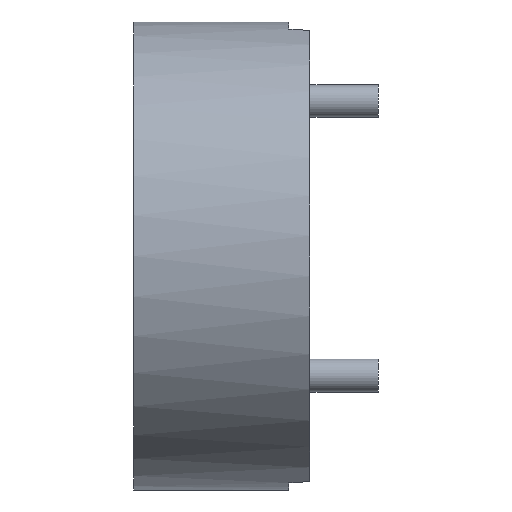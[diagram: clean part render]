
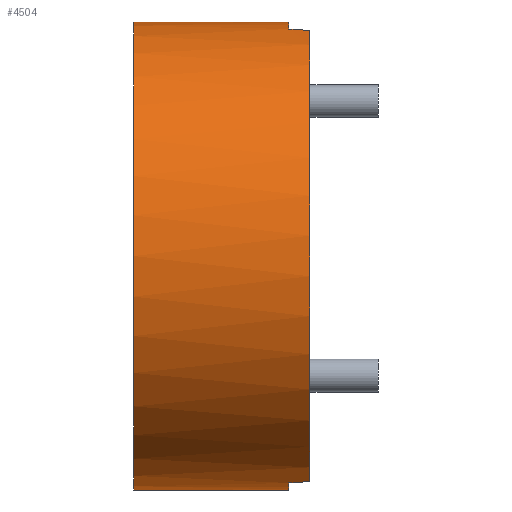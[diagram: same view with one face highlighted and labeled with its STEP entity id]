
A CAD part, left-side view. The second image highlights one B-rep face of the part: STEP entity #4504.
In plain terms, the highlighted cylindrical face has radius 14.287 mm (diameter 28.575 mm), a partial arc.
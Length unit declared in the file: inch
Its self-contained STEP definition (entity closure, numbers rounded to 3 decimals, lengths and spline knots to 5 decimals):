
#13 = VERTEX_POINT ( 'NONE', #6915 ) ;
#165 = ORIENTED_EDGE ( 'NONE', *, *, #8890, .F. ) ;
#242 =( BOUNDED_CURVE ( )  B_SPLINE_CURVE ( 3, ( #3968, #9374, #9426, #7949 ),
 .UNSPECIFIED., .F., .T. ) 
 B_SPLINE_CURVE_WITH_KNOTS ( ( 4, 4 ),
 ( 1.30086, 1.32549 ),
 .UNSPECIFIED. ) 
 CURVE ( )  GEOMETRIC_REPRESENTATION_ITEM ( )  RATIONAL_B_SPLINE_CURVE ( ( 1., 1., 1., 1. ) ) 
 REPRESENTATION_ITEM ( '' )  );
#423 = CARTESIAN_POINT ( 'NONE',  ( -0.1366, -0.1615, -0.54566 ) ) ;
#519 = AXIS2_PLACEMENT_3D ( 'NONE', #590, #3755, #6265 ) ;
#530 = DIRECTION ( 'NONE',  ( 0., 0., 1. ) ) ;
#570 =( BOUNDED_CURVE ( )  B_SPLINE_CURVE ( 3, ( #9657, #8788, #7975, #933 ),
 .UNSPECIFIED., .F., .F. ) 
 B_SPLINE_CURVE_WITH_KNOTS ( ( 4, 4 ),
 ( 4.95769, 4.98232 ),
 .UNSPECIFIED. ) 
 CURVE ( )  GEOMETRIC_REPRESENTATION_ITEM ( )  RATIONAL_B_SPLINE_CURVE ( ( 1., 1., 1., 1. ) ) 
 REPRESENTATION_ITEM ( '' )  );
#590 = CARTESIAN_POINT ( 'NONE',  ( 0., -0.2115, 0. ) ) ;
#933 = CARTESIAN_POINT ( 'NONE',  ( -0.15, -0.2115, -0.54213 ) ) ;
#938 = DIRECTION ( 'NONE',  ( 0., -1., 0. ) ) ;
#1036 = CIRCLE ( 'NONE', #5450, 0.5625 ) ;
#1200 = CARTESIAN_POINT ( 'NONE',  ( 0., -0.1615, 0.5625 ) ) ;
#1450 = CARTESIAN_POINT ( 'NONE',  ( 0., -0.1615, 0. ) ) ;
#2013 = VERTEX_POINT ( 'NONE', #423 ) ;
#2966 = ORIENTED_EDGE ( 'NONE', *, *, #3418, .T. ) ;
#3003 = AXIS2_PLACEMENT_3D ( 'NONE', #7798, #3250, #6371 ) ;
#3048 = CYLINDRICAL_SURFACE ( 'NONE', #5095, 0.5625 ) ;
#3117 = CARTESIAN_POINT ( 'NONE',  ( -0.15, -0.2115, 0.54213 ) ) ;
#3250 = DIRECTION ( 'NONE',  ( 0., 1., 0. ) ) ;
#3418 = EDGE_CURVE ( 'NONE', #5998, #2013, #9155, .T. ) ;
#3656 = EDGE_CURVE ( 'NONE', #4647, #5998, #5643, .T. ) ;
#3750 = ORIENTED_EDGE ( 'NONE', *, *, #8160, .T. ) ;
#3755 = DIRECTION ( 'NONE',  ( 0., 1., 0. ) ) ;
#3907 = CARTESIAN_POINT ( 'NONE',  ( 0., 0.2115, 0. ) ) ;
#3968 = CARTESIAN_POINT ( 'NONE',  ( -0.15, -0.2115, 0.54213 ) ) ;
#4043 = DIRECTION ( 'NONE',  ( 0., 0., 1. ) ) ;
#4136 = VECTOR ( 'NONE', #4162, 39.37008 ) ;
#4162 = DIRECTION ( 'NONE',  ( 0., -1., 0. ) ) ;
#4257 = CARTESIAN_POINT ( 'NONE',  ( 0., 0.2115, 0.5625 ) ) ;
#4361 = DIRECTION ( 'NONE',  ( 0., 1., 0. ) ) ;
#4390 = EDGE_CURVE ( 'NONE', #13, #7565, #6721, .T. ) ;
#4504 = ADVANCED_FACE ( 'NONE', ( #6928 ), #3048, .T. ) ;
#4647 = VERTEX_POINT ( 'NONE', #5025 ) ;
#4806 = DIRECTION ( 'NONE',  ( 0., 1., 0. ) ) ;
#4932 = ORIENTED_EDGE ( 'NONE', *, *, #7879, .F. ) ;
#5025 = CARTESIAN_POINT ( 'NONE',  ( 0., 0.2115, -0.5625 ) ) ;
#5095 = AXIS2_PLACEMENT_3D ( 'NONE', #3907, #6168, #9264 ) ;
#5290 = ORIENTED_EDGE ( 'NONE', *, *, #4390, .T. ) ;
#5450 = AXIS2_PLACEMENT_3D ( 'NONE', #5683, #4806, #4043 ) ;
#5520 = ORIENTED_EDGE ( 'NONE', *, *, #6581, .T. ) ;
#5530 = VERTEX_POINT ( 'NONE', #1200 ) ;
#5643 = LINE ( 'NONE', #6463, #9970 ) ;
#5683 = CARTESIAN_POINT ( 'NONE',  ( 0., -0.1615, 0. ) ) ;
#5998 = VERTEX_POINT ( 'NONE', #8263 ) ;
#6099 = ORIENTED_EDGE ( 'NONE', *, *, #3656, .T. ) ;
#6168 = DIRECTION ( 'NONE',  ( 0., -1., 0. ) ) ;
#6265 = DIRECTION ( 'NONE',  ( 0., 0., 1. ) ) ;
#6371 = DIRECTION ( 'NONE',  ( 0., 0., 1. ) ) ;
#6463 = CARTESIAN_POINT ( 'NONE',  ( 0., 0.2115, -0.5625 ) ) ;
#6581 = EDGE_CURVE ( 'NONE', #2013, #13, #570, .T. ) ;
#6593 = EDGE_LOOP ( 'NONE', ( #165, #4932, #6099, #2966, #5520, #5290, #8793, #3750 ) ) ;
#6660 = VERTEX_POINT ( 'NONE', #9089 ) ;
#6721 = CIRCLE ( 'NONE', #519, 0.5625 ) ;
#6915 = CARTESIAN_POINT ( 'NONE',  ( -0.15, -0.2115, -0.54213 ) ) ;
#6928 = FACE_OUTER_BOUND ( 'NONE', #6593, .T. ) ;
#7398 = CIRCLE ( 'NONE', #3003, 0.5625 ) ;
#7565 = VERTEX_POINT ( 'NONE', #3117 ) ;
#7798 = CARTESIAN_POINT ( 'NONE',  ( 0., 0.2115, 0. ) ) ;
#7879 = EDGE_CURVE ( 'NONE', #4647, #9009, #7398, .T. ) ;
#7900 = CARTESIAN_POINT ( 'NONE',  ( 0., 0.2115, 0.5625 ) ) ;
#7949 = CARTESIAN_POINT ( 'NONE',  ( -0.1366, -0.1615, 0.54566 ) ) ;
#7975 = CARTESIAN_POINT ( 'NONE',  ( -0.14555, -0.19489, -0.54336 ) ) ;
#8160 = EDGE_CURVE ( 'NONE', #6660, #5530, #1036, .T. ) ;
#8177 = AXIS2_PLACEMENT_3D ( 'NONE', #1450, #4361, #530 ) ;
#8263 = CARTESIAN_POINT ( 'NONE',  ( 0., -0.1615, -0.5625 ) ) ;
#8788 = CARTESIAN_POINT ( 'NONE',  ( -0.14108, -0.17822, -0.54454 ) ) ;
#8793 = ORIENTED_EDGE ( 'NONE', *, *, #9931, .T. ) ;
#8890 = EDGE_CURVE ( 'NONE', #9009, #5530, #9524, .T. ) ;
#9009 = VERTEX_POINT ( 'NONE', #4257 ) ;
#9089 = CARTESIAN_POINT ( 'NONE',  ( -0.1366, -0.1615, 0.54566 ) ) ;
#9155 = CIRCLE ( 'NONE', #8177, 0.5625 ) ;
#9264 = DIRECTION ( 'NONE',  ( 0., 0., -1. ) ) ;
#9374 = CARTESIAN_POINT ( 'NONE',  ( -0.14555, -0.19489, 0.54336 ) ) ;
#9426 = CARTESIAN_POINT ( 'NONE',  ( -0.14108, -0.17822, 0.54454 ) ) ;
#9524 = LINE ( 'NONE', #7900, #4136 ) ;
#9657 = CARTESIAN_POINT ( 'NONE',  ( -0.1366, -0.1615, -0.54566 ) ) ;
#9931 = EDGE_CURVE ( 'NONE', #7565, #6660, #242, .T. ) ;
#9970 = VECTOR ( 'NONE', #938, 39.37008 ) ;
